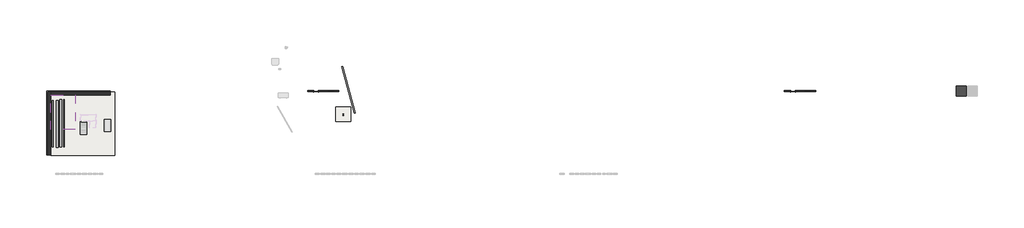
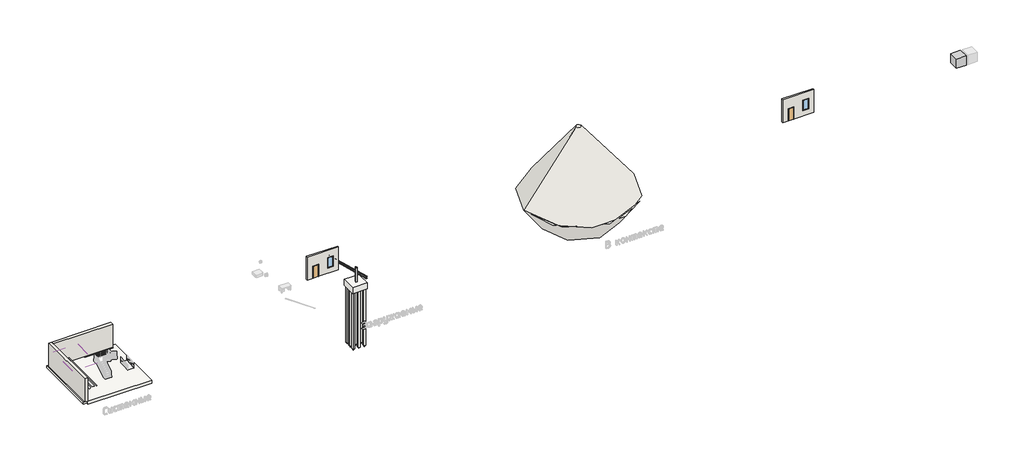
# One storey, part 1 of 6: 11 slabs, 5 walls, 2 beams, 2 doors, 2 footings, 2 windows, 1 column, 1 covering.
"""IFC4 building model written with IfcOpenShell, lengths in millimetres."""

from ifc_helpers import new_model, si_unit, frame, origin, origin_with_axes, place, context, project, spatial, polyline, outline, extrude, faceted_brep, transform, mapped, element, save
from components import specialty_equipment_c6e90f60, w310x38_7_990ea90e, w250x49_1_2da3a2e4, door_0c256fab, wall_f4106ca5, window_5d6e8bc1

model = new_model("IFC4")

# Units and contexts
model_context = context("Model", 3, world=origin())
ifc_project = project(units=[si_unit("LENGTHUNIT", "METRE", prefix="MILLI")], contexts=[model_context])

# Site, building, storey
site = spatial("IfcSite", under=ifc_project)
building = spatial("IfcBuilding", under=site)
storey = spatial("IfcBuildingStorey", under=building, Name="Уровень 1", Elevation=0.0)

# Beams
placement = place(None, origin())
specialty_equipment_shape = specialty_equipment_c6e90f60(model_context)
element("IfcBeam", 1, ObjectType="Кубик_Разрезаемая геометрия : Кубик_Разрезаемая геометрия", at=placement, inside=storey, context=model_context, shape_type="MappedRepresentation", body=[
    mapped(specialty_equipment_shape, transform((136034.2176162, 13888.7510069, 0.0), x_axis=(1.0, 0.0, 0.0), y_axis=(0.0, 1.0, 0.0), z_axis=(0.0, 0.0, 1.0))),
])
w310x38_7_shape = w310x38_7_990ea90e(model_context)
element("IfcBeam", 2, ObjectType="M_W Формы : W310X38.7", at=placement, inside=storey, context=model_context, shape_type="MappedRepresentation", body=[
    mapped(w310x38_7_shape, transform((34482.5607195, 18989.725506, -155.0), x_axis=(0.26617289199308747, -0.9639253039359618, 0.0), y_axis=(0.9639253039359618, 0.26617289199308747, 0.0), z_axis=(0.0, 0.0, 1.0))),
])

# Column
w250x49_1_shape = w250x49_1_2da3a2e4(model_context)
element("IfcColumn", 3, ObjectType="M_W Формы-Колонна : W250X49.1", at=placement, inside=storey, context=model_context, shape_type="MappedRepresentation", body=[
    mapped(w250x49_1_shape, transform((34971.2772597, 9977.0239142, 0.0), x_axis=(1.0, 0.0, 0.0), y_axis=(0.0, 1.0, 0.0), z_axis=(0.0, 0.0, 1.0))),
])

# Covering
element("IfcCovering", 4, ObjectType="ГСП на мет. обрешетке", at=placement, inside=storey, context=model_context, shape_type="SweptSolid", body=[
    extrude(outline(polyline([(-8864.3085886, 13201.1546779), (-8864.3085886, 7626.2111925), (-12864.3085886, 7626.2111925), (-12864.3085886, 13201.1546779), (-8864.3085886, 13201.1546779)])), frame((0.0, 0.0, 2600.0), z_axis=(0.0, 0.0, 1.0), x_axis=(1.0, 0.0, 0.0)), (0.0, 0.0, 1.0), 57.0),
])

# Doors
door_shape = door_0c256fab(model_context)
element("IfcDoor", 5, ObjectType="M_Однопольные-Щитовые : 0762 x 2032 мм", at=placement, inside=storey, context=model_context, shape_type="MappedRepresentation", body=[
    mapped(door_shape, transform((30534.2176162, 13888.7510069, 0.0), x_axis=(-1.0, 0.0, 0.0), y_axis=(0.0, -1.0, 0.0), z_axis=(0.0, 0.0, 1.0))),
])
element("IfcDoor", 6, ObjectType="M_Однопольные-Щитовые : 0762 x 2032 мм", at=placement, inside=storey, context=model_context, shape_type="MappedRepresentation", body=[
    mapped(door_shape, transform((108534.2176162, 13888.7510069, 0.0), x_axis=(-1.0, 0.0, 0.0), y_axis=(0.0, -1.0, 0.0), z_axis=(0.0, 0.0, 1.0))),
])

# Footings
element("IfcFooting", 7, ObjectType="Опорная пята - 900 x 300", at=placement, inside=storey, context=model_context, shape_type="Brep", body=[
    faceted_brep([(-12659.3085886, 3446.1546779, 0.0), (-13559.3085886, 3446.1546779, 0.0), (-13559.3085886, 3446.1546779, -300.0), (-12659.3085886, 3446.1546779, -300.0), (-13559.3085886, 13896.1546779, 0.0), (-12659.3085886, 12996.1546779, 0.0), (-12659.3085886, 13896.1546779, 0.0), (-12659.3085886, 13896.1546779, -300.0), (-12659.3085886, 12996.1546779, -300.0), (-13559.3085886, 13896.1546779, -300.0)], [[[0, 1, 2, 3]], [[4, 1, 0, 5, 6]], [[7, 6, 5, 0, 3, 8]], [[9, 7, 8, 3, 2]], [[4, 9, 2, 1]], [[4, 6, 7, 9]]]),
])
element("IfcFooting", 8, ObjectType="Опорная пята - 900 x 300", at=placement, inside=storey, context=model_context, shape_type="SweptSolid", body=[
    extrude(outline(polyline([(-3109.3085886, 13896.1546779), (-3109.3085886, 12996.1546779), (-12659.3085886, 12996.1546779), (-12659.3085886, 13896.1546779), (-3109.3085886, 13896.1546779)])), frame((0.0, 0.0, -300.0), z_axis=(0.0, 0.0, 1.0), x_axis=(1.0, 0.0, 0.0)), (0.0, 0.0, 1.0), 300.0),
])

# Slabs
element("IfcSlab", 9, ObjectType="Балка фермовая стальная - ВСЧ на легком бетоне ", at=placement, inside=storey, context=model_context, shape_type="SweptSolid", body=[
    extrude(outline(polyline([(-2374.3085886, 13691.1546779), (-2374.3085886, 3346.1546779), (-12864.3085886, 3346.1546779), (-12864.3085886, 13691.1546779), (-2374.3085886, 13691.1546779)])), frame((0.0, 0.0, -510.0), z_axis=(0.0, 0.0, 1.0), x_axis=(1.0, 0.0, 0.0)), (0.0, 0.0, 1.0), 510.0),
])
element("IfcSlab", 10, ObjectType="Оголовок сваи-9 Свая прямоугольного сечения из бетона : 2400 x 2400 x 1000 мм", at=placement, inside=storey, context=model_context, shape_type="Brep", body=[
    faceted_brep([(36171.2772597, 11300.5239142, 0.0), (33771.2772597, 11300.5239142, 0.0), (33771.2772597, 8900.5239142, 0.0), (36171.2772597, 8900.5239142, 0.0), (36171.2772597, 11300.5239142, -1000.0), (36171.2772597, 8900.5239142, -1000.0), (33771.2772597, 8900.5239142, -1000.0), (33771.2772597, 11300.5239142, -1000.0), (33921.2772597, 11150.5239142, -1000.0), (33921.2772597, 10850.5239142, -1000.0), (34221.2772597, 10850.5239142, -1000.0), (34221.2772597, 11150.5239142, -1000.0), (34821.2772597, 11150.5239142, -1000.0), (34821.2772597, 10850.5239142, -1000.0), (35121.2772597, 10850.5239142, -1000.0), (35121.2772597, 11150.5239142, -1000.0), (35721.2772597, 11150.5239142, -1000.0), (35721.2772597, 10850.5239142, -1000.0), (36021.2772597, 10850.5239142, -1000.0), (36021.2772597, 11150.5239142, -1000.0), (33921.2772597, 10250.5239142, -1000.0), (33921.2772597, 9950.5239142, -1000.0), (34221.2772597, 9950.5239142, -1000.0), (34221.2772597, 10250.5239142, -1000.0), (34821.2772597, 10250.5239142, -1000.0), (34821.2772597, 9950.5239142, -1000.0), (35121.2772597, 9950.5239142, -1000.0), (35121.2772597, 10250.5239142, -1000.0), (35721.2772597, 10250.5239142, -1000.0), (35721.2772597, 9950.5239142, -1000.0), (36021.2772597, 9950.5239142, -1000.0), (36021.2772597, 10250.5239142, -1000.0), (33921.2772597, 9350.5239142, -1000.0), (33921.2772597, 9050.5239142, -1000.0), (34221.2772597, 9050.5239142, -1000.0), (34221.2772597, 9350.5239142, -1000.0), (34821.2772597, 9350.5239142, -1000.0), (34821.2772597, 9050.5239142, -1000.0), (35121.2772597, 9050.5239142, -1000.0), (35121.2772597, 9350.5239142, -1000.0), (35721.2772597, 9350.5239142, -1000.0), (35721.2772597, 9050.5239142, -1000.0), (36021.2772597, 9050.5239142, -1000.0), (36021.2772597, 9350.5239142, -1000.0), (33921.2772597, 9350.5239142, -850.0), (34221.2772597, 9350.5239142, -850.0), (34221.2772597, 9050.5239142, -850.0), (33921.2772597, 9050.5239142, -850.0), (35721.2772597, 9350.5239142, -850.0), (36021.2772597, 9350.5239142, -850.0), (36021.2772597, 9050.5239142, -850.0), (35721.2772597, 9050.5239142, -850.0), (35721.2772597, 11150.5239142, -850.0), (36021.2772597, 11150.5239142, -850.0), (36021.2772597, 10850.5239142, -850.0), (35721.2772597, 10850.5239142, -850.0), (33921.2772597, 11150.5239142, -850.0), (34221.2772597, 11150.5239142, -850.0), (34221.2772597, 10850.5239142, -850.0), (33921.2772597, 10850.5239142, -850.0), (33921.2772597, 10250.5239142, -850.0), (34221.2772597, 10250.5239142, -850.0), (34221.2772597, 9950.5239142, -850.0), (33921.2772597, 9950.5239142, -850.0), (35721.2772597, 10250.5239142, -850.0), (36021.2772597, 10250.5239142, -850.0), (36021.2772597, 9950.5239142, -850.0), (35721.2772597, 9950.5239142, -850.0), (34821.2772597, 11150.5239142, -850.0), (35121.2772597, 11150.5239142, -850.0), (35121.2772597, 10850.5239142, -850.0), (34821.2772597, 10850.5239142, -850.0), (34821.2772597, 10250.5239142, -850.0), (35121.2772597, 10250.5239142, -850.0), (35121.2772597, 9950.5239142, -850.0), (34821.2772597, 9950.5239142, -850.0), (34821.2772597, 9350.5239142, -850.0), (35121.2772597, 9350.5239142, -850.0), (35121.2772597, 9050.5239142, -850.0), (34821.2772597, 9050.5239142, -850.0)], [[[0, 1, 2, 3]], [[4, 5, 6, 7], [8, 9, 10, 11], [12, 13, 14, 15], [16, 17, 18, 19], [20, 21, 22, 23], [24, 25, 26, 27], [28, 29, 30, 31], [32, 33, 34, 35], [36, 37, 38, 39], [40, 41, 42, 43]], [[1, 0, 4, 7]], [[2, 1, 7, 6]], [[3, 2, 6, 5]], [[0, 3, 5, 4]], [[44, 45, 46, 47]], [[48, 49, 50, 51]], [[52, 53, 54, 55]], [[56, 57, 58, 59]], [[60, 61, 62, 63]], [[64, 65, 66, 67]], [[68, 69, 70, 71]], [[72, 73, 74, 75]], [[76, 77, 78, 79]], [[56, 59, 9, 8]], [[59, 58, 10, 9]], [[58, 57, 11, 10]], [[57, 56, 8, 11]], [[68, 71, 13, 12]], [[71, 70, 14, 13]], [[70, 69, 15, 14]], [[69, 68, 12, 15]], [[52, 55, 17, 16]], [[55, 54, 18, 17]], [[54, 53, 19, 18]], [[53, 52, 16, 19]], [[60, 63, 21, 20]], [[63, 62, 22, 21]], [[62, 61, 23, 22]], [[61, 60, 20, 23]], [[72, 75, 25, 24]], [[75, 74, 26, 25]], [[74, 73, 27, 26]], [[73, 72, 24, 27]], [[64, 67, 29, 28]], [[67, 66, 30, 29]], [[66, 65, 31, 30]], [[65, 64, 28, 31]], [[44, 47, 33, 32]], [[47, 46, 34, 33]], [[46, 45, 35, 34]], [[45, 44, 32, 35]], [[76, 79, 37, 36]], [[79, 78, 38, 37]], [[78, 77, 39, 38]], [[77, 76, 36, 39]], [[48, 51, 41, 40]], [[51, 50, 42, 41]], [[50, 49, 43, 42]], [[49, 48, 40, 43]]]),
])
element("IfcSlab", 11, ObjectType="Бетонная свая прямоугольного сечения : C100.30-6", at=placement, inside=storey, context=model_context, shape_type="Brep", body=[
    faceted_brep([(34221.2772597, 9350.5239142, -850.0), (33921.2772597, 9350.5239142, -850.0), (33921.2772597, 9050.5239142, -850.0), (34221.2772597, 9050.5239142, -850.0), (34221.2772597, 9350.5239142, -1000.0), (34221.2772597, 9350.5239142, -10850.0), (33921.2772597, 9350.5239142, -10850.0), (33921.2772597, 9350.5239142, -1000.0), (33921.2772597, 9050.5239142, -10850.0), (33921.2772597, 9050.5239142, -1000.0), (34221.2772597, 9050.5239142, -10850.0), (34221.2772597, 9050.5239142, -1000.0), (34071.6998209, 9200.9041593, -11100.0), (34071.6998209, 9200.1041593, -11100.0), (34070.8998209, 9200.1041593, -11100.0), (34070.8998209, 9200.9041593, -11100.0)], [[[0, 1, 2, 3]], [[1, 0, 4, 5, 6, 7]], [[2, 1, 7, 6, 8, 9]], [[3, 2, 9, 8, 10, 11]], [[0, 3, 11, 10, 5, 4]], [[12, 13, 14, 15]], [[5, 10, 13, 12]], [[10, 8, 14, 13]], [[8, 6, 15, 14]], [[6, 5, 12, 15]]]),
])
element("IfcSlab", 12, ObjectType="Бетонная свая прямоугольного сечения : C100.30-6", at=placement, inside=storey, context=model_context, shape_type="Brep", body=[
    faceted_brep([(36021.2772597, 9350.5239142, -850.0), (35721.2772597, 9350.5239142, -850.0), (35721.2772597, 9050.5239142, -850.0), (36021.2772597, 9050.5239142, -850.0), (36021.2772597, 9350.5239142, -1000.0), (36021.2772597, 9350.5239142, -10850.0), (35721.2772597, 9350.5239142, -10850.0), (35721.2772597, 9350.5239142, -1000.0), (35721.2772597, 9050.5239142, -10850.0), (35721.2772597, 9050.5239142, -1000.0), (36021.2772597, 9050.5239142, -10850.0), (36021.2772597, 9050.5239142, -1000.0), (35871.6998209, 9200.9041593, -11100.0), (35871.6998209, 9200.1041593, -11100.0), (35870.8998209, 9200.1041593, -11100.0), (35870.8998209, 9200.9041593, -11100.0)], [[[0, 1, 2, 3]], [[1, 0, 4, 5, 6, 7]], [[2, 1, 7, 6, 8, 9]], [[3, 2, 9, 8, 10, 11]], [[0, 3, 11, 10, 5, 4]], [[12, 13, 14, 15]], [[5, 10, 13, 12]], [[10, 8, 14, 13]], [[8, 6, 15, 14]], [[6, 5, 12, 15]]]),
])
element("IfcSlab", 13, ObjectType="Бетонная свая прямоугольного сечения : C100.30-6", at=placement, inside=storey, context=model_context, shape_type="Brep", body=[
    faceted_brep([(36021.2772597, 11150.5239142, -850.0), (35721.2772597, 11150.5239142, -850.0), (35721.2772597, 10850.5239142, -850.0), (36021.2772597, 10850.5239142, -850.0), (36021.2772597, 11150.5239142, -1000.0), (36021.2772597, 11150.5239142, -10850.0), (35721.2772597, 11150.5239142, -10850.0), (35721.2772597, 11150.5239142, -1000.0), (35721.2772597, 10850.5239142, -10850.0), (35721.2772597, 10850.5239142, -1000.0), (36021.2772597, 10850.5239142, -10850.0), (36021.2772597, 10850.5239142, -1000.0), (35871.6998209, 11000.9041593, -11100.0), (35871.6998209, 11000.1041593, -11100.0), (35870.8998209, 11000.1041593, -11100.0), (35870.8998209, 11000.9041593, -11100.0)], [[[0, 1, 2, 3]], [[1, 0, 4, 5, 6, 7]], [[2, 1, 7, 6, 8, 9]], [[3, 2, 9, 8, 10, 11]], [[0, 3, 11, 10, 5, 4]], [[12, 13, 14, 15]], [[5, 10, 13, 12]], [[10, 8, 14, 13]], [[8, 6, 15, 14]], [[6, 5, 12, 15]]]),
])
element("IfcSlab", 14, ObjectType="Бетонная свая прямоугольного сечения : C100.30-6", at=placement, inside=storey, context=model_context, shape_type="Brep", body=[
    faceted_brep([(34221.2772597, 11150.5239142, -850.0), (33921.2772597, 11150.5239142, -850.0), (33921.2772597, 10850.5239142, -850.0), (34221.2772597, 10850.5239142, -850.0), (34221.2772597, 11150.5239142, -1000.0), (34221.2772597, 11150.5239142, -10850.0), (33921.2772597, 11150.5239142, -10850.0), (33921.2772597, 11150.5239142, -1000.0), (33921.2772597, 10850.5239142, -10850.0), (33921.2772597, 10850.5239142, -1000.0), (34221.2772597, 10850.5239142, -10850.0), (34221.2772597, 10850.5239142, -1000.0), (34071.6998209, 11000.9041593, -11100.0), (34071.6998209, 11000.1041593, -11100.0), (34070.8998209, 11000.1041593, -11100.0), (34070.8998209, 11000.9041593, -11100.0)], [[[0, 1, 2, 3]], [[1, 0, 4, 5, 6, 7]], [[2, 1, 7, 6, 8, 9]], [[3, 2, 9, 8, 10, 11]], [[0, 3, 11, 10, 5, 4]], [[12, 13, 14, 15]], [[5, 10, 13, 12]], [[10, 8, 14, 13]], [[8, 6, 15, 14]], [[6, 5, 12, 15]]]),
])
element("IfcSlab", 15, ObjectType="Бетонная свая прямоугольного сечения : C100.30-6", at=placement, inside=storey, context=model_context, shape_type="Brep", body=[
    faceted_brep([(34221.2772597, 10250.5239142, -850.0), (33921.2772597, 10250.5239142, -850.0), (33921.2772597, 9950.5239142, -850.0), (34221.2772597, 9950.5239142, -850.0), (34221.2772597, 10250.5239142, -1000.0), (34221.2772597, 10250.5239142, -10850.0), (33921.2772597, 10250.5239142, -10850.0), (33921.2772597, 10250.5239142, -1000.0), (33921.2772597, 9950.5239142, -10850.0), (33921.2772597, 9950.5239142, -1000.0), (34221.2772597, 9950.5239142, -10850.0), (34221.2772597, 9950.5239142, -1000.0), (34071.6998209, 10100.9041593, -11100.0), (34071.6998209, 10100.1041593, -11100.0), (34070.8998209, 10100.1041593, -11100.0), (34070.8998209, 10100.9041593, -11100.0)], [[[0, 1, 2, 3]], [[1, 0, 4, 5, 6, 7]], [[2, 1, 7, 6, 8, 9]], [[3, 2, 9, 8, 10, 11]], [[0, 3, 11, 10, 5, 4]], [[12, 13, 14, 15]], [[5, 10, 13, 12]], [[10, 8, 14, 13]], [[8, 6, 15, 14]], [[6, 5, 12, 15]]]),
])
element("IfcSlab", 16, ObjectType="Бетонная свая прямоугольного сечения : C100.30-6", at=placement, inside=storey, context=model_context, shape_type="Brep", body=[
    faceted_brep([(36021.2772597, 10250.5239142, -850.0), (35721.2772597, 10250.5239142, -850.0), (35721.2772597, 9950.5239142, -850.0), (36021.2772597, 9950.5239142, -850.0), (36021.2772597, 10250.5239142, -1000.0), (36021.2772597, 10250.5239142, -10850.0), (35721.2772597, 10250.5239142, -10850.0), (35721.2772597, 10250.5239142, -1000.0), (35721.2772597, 9950.5239142, -10850.0), (35721.2772597, 9950.5239142, -1000.0), (36021.2772597, 9950.5239142, -10850.0), (36021.2772597, 9950.5239142, -1000.0), (35871.6998209, 10100.9041593, -11100.0), (35871.6998209, 10100.1041593, -11100.0), (35870.8998209, 10100.1041593, -11100.0), (35870.8998209, 10100.9041593, -11100.0)], [[[0, 1, 2, 3]], [[1, 0, 4, 5, 6, 7]], [[2, 1, 7, 6, 8, 9]], [[3, 2, 9, 8, 10, 11]], [[0, 3, 11, 10, 5, 4]], [[12, 13, 14, 15]], [[5, 10, 13, 12]], [[10, 8, 14, 13]], [[8, 6, 15, 14]], [[6, 5, 12, 15]]]),
])
element("IfcSlab", 17, ObjectType="Бетонная свая прямоугольного сечения : C100.30-6", at=placement, inside=storey, context=model_context, shape_type="Brep", body=[
    faceted_brep([(35121.2772597, 11150.5239142, -850.0), (34821.2772597, 11150.5239142, -850.0), (34821.2772597, 10850.5239142, -850.0), (35121.2772597, 10850.5239142, -850.0), (35121.2772597, 11150.5239142, -1000.0), (35121.2772597, 11150.5239142, -10850.0), (34821.2772597, 11150.5239142, -10850.0), (34821.2772597, 11150.5239142, -1000.0), (34821.2772597, 10850.5239142, -10850.0), (34821.2772597, 10850.5239142, -1000.0), (35121.2772597, 10850.5239142, -10850.0), (35121.2772597, 10850.5239142, -1000.0), (34971.6998209, 11000.9041593, -11100.0), (34971.6998209, 11000.1041593, -11100.0), (34970.8998209, 11000.1041593, -11100.0), (34970.8998209, 11000.9041593, -11100.0)], [[[0, 1, 2, 3]], [[1, 0, 4, 5, 6, 7]], [[2, 1, 7, 6, 8, 9]], [[3, 2, 9, 8, 10, 11]], [[0, 3, 11, 10, 5, 4]], [[12, 13, 14, 15]], [[5, 10, 13, 12]], [[10, 8, 14, 13]], [[8, 6, 15, 14]], [[6, 5, 12, 15]]]),
])
element("IfcSlab", 18, ObjectType="Бетонная свая прямоугольного сечения : C100.30-6", at=placement, inside=storey, context=model_context, shape_type="Brep", body=[
    faceted_brep([(35121.2772597, 10250.5239142, -850.0), (34821.2772597, 10250.5239142, -850.0), (34821.2772597, 9950.5239142, -850.0), (35121.2772597, 9950.5239142, -850.0), (35121.2772597, 10250.5239142, -1000.0), (35121.2772597, 10250.5239142, -10850.0), (34821.2772597, 10250.5239142, -10850.0), (34821.2772597, 10250.5239142, -1000.0), (34821.2772597, 9950.5239142, -10850.0), (34821.2772597, 9950.5239142, -1000.0), (35121.2772597, 9950.5239142, -10850.0), (35121.2772597, 9950.5239142, -1000.0), (34971.6998209, 10100.9041593, -11100.0), (34971.6998209, 10100.1041593, -11100.0), (34970.8998209, 10100.1041593, -11100.0), (34970.8998209, 10100.9041593, -11100.0)], [[[0, 1, 2, 3]], [[1, 0, 4, 5, 6, 7]], [[2, 1, 7, 6, 8, 9]], [[3, 2, 9, 8, 10, 11]], [[0, 3, 11, 10, 5, 4]], [[12, 13, 14, 15]], [[5, 10, 13, 12]], [[10, 8, 14, 13]], [[8, 6, 15, 14]], [[6, 5, 12, 15]]]),
])
element("IfcSlab", 19, ObjectType="Бетонная свая прямоугольного сечения : C100.30-6", at=placement, inside=storey, context=model_context, shape_type="Brep", body=[
    faceted_brep([(35121.2772597, 9350.5239142, -850.0), (34821.2772597, 9350.5239142, -850.0), (34821.2772597, 9050.5239142, -850.0), (35121.2772597, 9050.5239142, -850.0), (35121.2772597, 9350.5239142, -1000.0), (35121.2772597, 9350.5239142, -10850.0), (34821.2772597, 9350.5239142, -10850.0), (34821.2772597, 9350.5239142, -1000.0), (34821.2772597, 9050.5239142, -10850.0), (34821.2772597, 9050.5239142, -1000.0), (35121.2772597, 9050.5239142, -10850.0), (35121.2772597, 9050.5239142, -1000.0), (34971.6998209, 9200.9041593, -11100.0), (34971.6998209, 9200.1041593, -11100.0), (34970.8998209, 9200.1041593, -11100.0), (34970.8998209, 9200.9041593, -11100.0)], [[[0, 1, 2, 3]], [[1, 0, 4, 5, 6, 7]], [[2, 1, 7, 6, 8, 9]], [[3, 2, 9, 8, 10, 11]], [[0, 3, 11, 10, 5, 4]], [[12, 13, 14, 15]], [[5, 10, 13, 12]], [[10, 8, 14, 13]], [[8, 6, 15, 14]], [[6, 5, 12, 15]]]),
])

# Walls
element("IfcWall", 20, ObjectType="Наружный - Кирпич на бетонном блоке", at=placement, inside=storey, context=model_context, shape_type="Brep", body=[
    faceted_brep([(-13354.3085886, 13691.1546779, 0.0), (-13354.3085886, 3446.1546779, 0.0), (-13354.3085886, 3446.1546779, 4000.0), (-13354.3085886, 13691.1546779, 4000.0), (-12864.3085886, 13691.1546779, 0.0), (-12864.3085886, 13691.1546779, 4000.0), (-12864.3085886, 13201.1546779, 4000.0), (-12864.3085886, 3446.1546779, 4000.0), (-12864.3085886, 3446.1546779, 0.0), (-12864.3085886, 13201.1546779, 0.0)], [[[0, 1, 2, 3]], [[4, 5, 6, 7, 8, 9]], [[1, 0, 4, 9, 8]], [[2, 1, 8, 7]], [[3, 2, 7, 6, 5]], [[0, 3, 5, 4]]]),
])
element("IfcWall", 21, ObjectType="Наружный - Кирпич на бетонном блоке", at=placement, inside=storey, context=model_context, shape_type="SweptSolid", body=[
    extrude(outline(polyline([(-12864.3085886, 13691.1546779), (-3109.3085886, 13691.1546779), (-3109.3085886, 13201.1546779), (-12864.3085886, 13201.1546779), (-12864.3085886, 13691.1546779)])), origin_with_axes(), (0.0, 0.0, 1.0), 4000.0),
])
element("IfcWall", 22, ObjectType="Типовой - 200мм", at=placement, inside=storey, context=model_context, shape_type="SweptSolid", body=[
    extrude(outline(polyline([(0.0, 29134.2176162), (0.0, 30153.2176162), (2032.0, 30153.2176162), (2032.0, 30915.2176162), (0.0, 30915.2176162), (0.0, 34234.2176162), (4000.0, 34234.2176162), (4000.0, 29134.2176162), (0.0, 29134.2176162)]), holes=[polyline([(915.0, 33391.7176162), (915.0, 32476.7176162), (2745.0, 32476.7176162), (2745.0, 33391.7176162), (915.0, 33391.7176162)])]), frame((0.0, 13788.7510069, 0.0), z_axis=(0.0, 1.0, 0.0), x_axis=(0.0, 0.0, 1.0)), (0.0, 0.0, 1.0), 200.0),
])
element("IfcWall", 23, ObjectType="Типовой - 200мм", at=placement, inside=storey, context=model_context, shape_type="SweptSolid", body=[
    extrude(outline(polyline([(0.0, 107134.2176162), (0.0, 108153.2176162), (2032.0, 108153.2176162), (2032.0, 108915.2176162), (0.0, 108915.2176162), (0.0, 112234.2176162), (4000.0, 112234.2176162), (4000.0, 107134.2176162), (0.0, 107134.2176162)]), holes=[polyline([(915.0, 111391.7176162), (915.0, 110476.7176162), (2745.0, 110476.7176162), (2745.0, 111391.7176162), (915.0, 111391.7176162)])]), frame((0.0, 13788.7510069, 0.0), z_axis=(0.0, 1.0, 0.0), x_axis=(0.0, 0.0, 1.0)), (0.0, 0.0, 1.0), 200.0),
])
wall_shape = wall_f4106ca5(model_context)
element("IfcWall", 24, ObjectType="Стены 1 : Стены 1", at=placement, inside=storey, context=model_context, shape_type="MappedRepresentation", body=[
    mapped(wall_shape, transform((0.0, 0.0, 0.0), x_axis=(1.0, 0.0, 0.0), y_axis=(0.0, 1.0, 0.0), z_axis=(0.0, 0.0, 1.0))),
])

# Windows
window_shape = window_5d6e8bc1(model_context)
element("IfcWindow", 25, ObjectType="M_Неподвижный : 0915 x 1830 мм", at=placement, inside=storey, context=model_context, shape_type="MappedRepresentation", body=[
    mapped(window_shape, transform((32934.2176162, 13901.7510069, 610.0), x_axis=(-1.0, 0.0, 0.0), y_axis=(0.0, -1.0, 0.0), z_axis=(0.0, 0.0, 1.0))),
])
element("IfcWindow", 26, ObjectType="M_Неподвижный : 0915 x 1830 мм", at=placement, inside=storey, context=model_context, shape_type="MappedRepresentation", body=[
    mapped(window_shape, transform((110934.2176162, 13901.7510069, 610.0), x_axis=(-1.0, 0.0, 0.0), y_axis=(0.0, -1.0, 0.0), z_axis=(0.0, 0.0, 1.0))),
])

save(model, "model.ifc")
